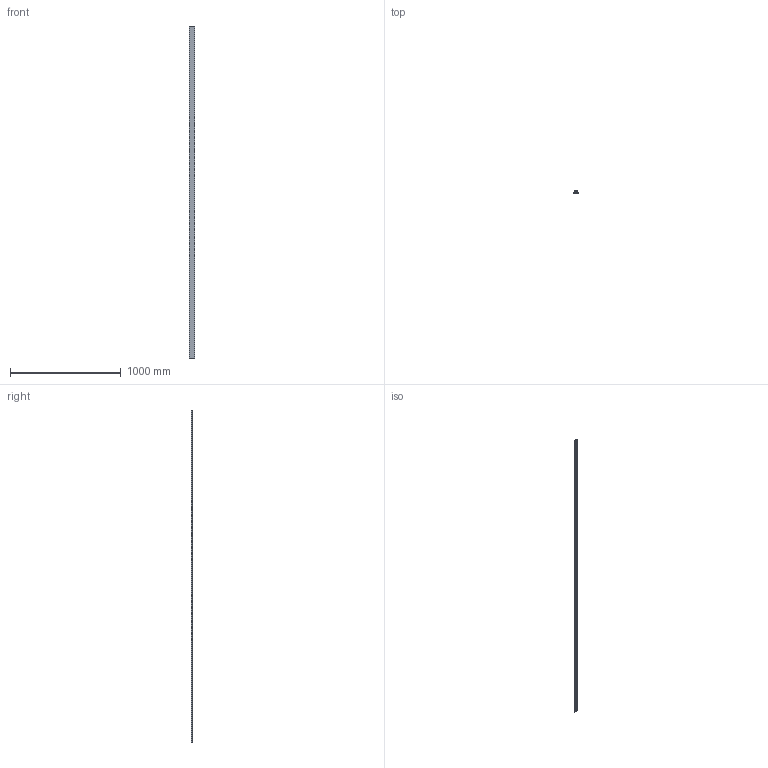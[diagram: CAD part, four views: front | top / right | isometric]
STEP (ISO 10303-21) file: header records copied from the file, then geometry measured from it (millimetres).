
FILE_DESCRIPTION(/* description */ ('GTV-124 LED profile'),/* implementation_level */ '2;1');
FILE_NAME(/* name */ 'D:\$Workspace\Designs\Różne\Brły 3D Glaxów_robocze\stp\PA-GLAXNBD-AL.stp',/* time_stamp */ '2017-08-22T15:52:25+02:00',/* author */ ('PiotrMz'),/* organization */ (''),/* preprocessor_version */ 'ST-DEVELOPER v16.1',/* originating_system */ 'Autodesk Inventor 2016',/* authorisation */ '');
FILE_SCHEMA (('AUTOMOTIVE_DESIGN { 1 0 10303 214 3 1 1 }'));
Length unit declared in the file: millimetre
Products named in the file (1): profil nabijany double_uproszczony
Bounding box: 49.13 x 15.75 x 3000 mm (x, y, z)
Volume: 692048.9 mm3; surface area: 476537 mm2
Topology: 1 solids, 1 shells, 53 faces, 153 edges, 102 vertices
Faces by surface type: plane 38, cylinder 15
Entity records: 1761 total; most frequent: CARTESIAN_POINT 309, ORIENTED_EDGE 306, DIRECTION 291, EDGE_CURVE 153, LINE 123, VECTOR 123, VERTEX_POINT 102, AXIS2_PLACEMENT_3D 84
